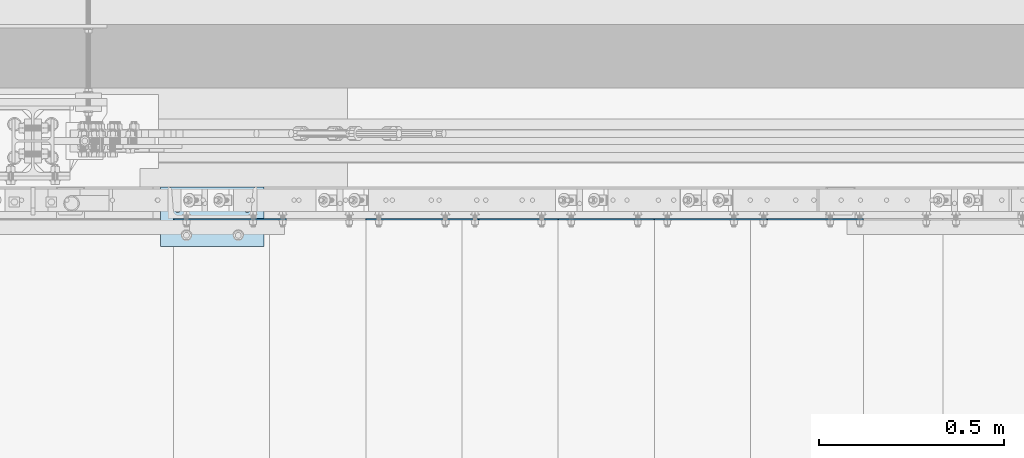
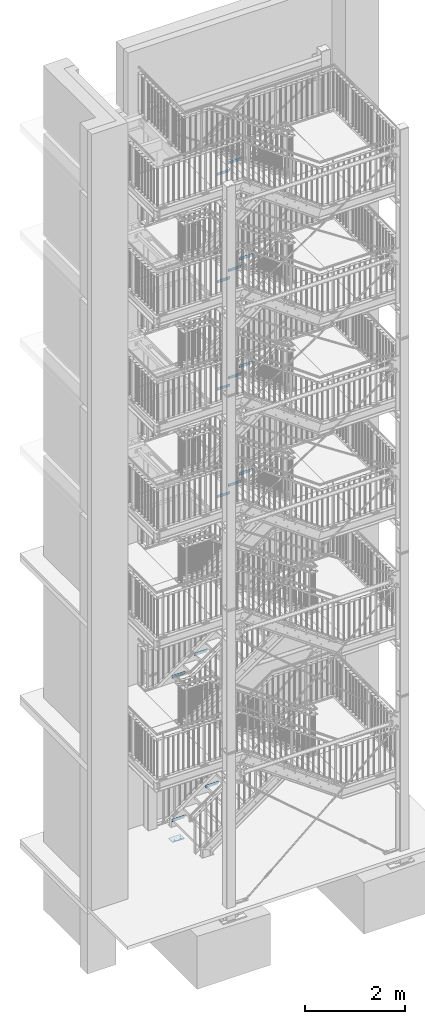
# One storey, part 191 of 825: 16 plates, 34 openings.
"""IFC2X3 building model written with IfcOpenShell, lengths in millimetres."""

from ifc_helpers import new_model, entity, si_unit, converted_unit, point, frame, frame_2d, origin, origin_with_axes, origin_2d_with_axis, place, context, project, spatial, polyline, circle_curve, line_curve, trimmed, segment, composite_curve, circle, outline, extrude, material, layer, layer_set, element, save


model = new_model("IFC2X3")

# Units and contexts
model_context = context("Model", 3, precision=1e-09, world=origin_with_axes())
ifc_project = project(units=[si_unit("LENGTHUNIT", "METRE", prefix="MILLI"), si_unit("AREAUNIT", "SQUARE_METRE"), si_unit("VOLUMEUNIT", "CUBIC_METRE"), converted_unit("PLANEANGLEUNIT", "DEGREE", entity("IfcPlaneAngleMeasure", 0.01745329), si_unit("PLANEANGLEUNIT", "RADIAN"), dimensions=[0, 0, 0, 0, 0, 0, 0])], contexts=[model_context])

# Site, building, storey
site_placement = place(None, origin_with_axes())
site = spatial("IfcSite", under=ifc_project, at=site_placement, Name="Cnopf'sche Kinderklinik", CompositionType="ELEMENT")
building_placement = place(site_placement, origin_with_axes())
building = spatial("IfcBuilding", under=site, at=building_placement, Name="Struktur 1", CompositionType="ELEMENT")
storey_placement = place(building_placement, origin_with_axes())
storey = spatial("IfcBuildingStorey", under=building, at=storey_placement, Name="Default Storey", CompositionType="ELEMENT", Elevation=0.0)

# Plate, openings
ifc_material = material(Name="S235JR")
ifc_layer_1 = layer(ifc_material, 3.0)
ifc_layer_set_1 = layer_set([ifc_layer_1], Name="S235JR")
plate_1_placement = place(None, frame((6276.713402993, 7306.736971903, 10742.571429), z_axis=(0.0, -1.0, 0.0), x_axis=(0.0, 0.0, -1.0)))
plate_1 = element("IfcPlate", 1, at=plate_1_placement, inside=storey, material=ifc_layer_set_1, Name="Grate_Step#23", ObjectType="Grate_Step#23", context=model_context, shape_type="SweptSolid", body=[
    extrude(outline(polyline([(0.0, 0.0), (70.0, 0.0), (70.0, 275.0), (40.0, 305.0), (0.0, 305.0), (0.0, 0.0)])), origin_with_axes(), (0.0, 0.0, 1.0), 3.0),
])
opening_1_placement = place(plate_1_placement, frame((55.0, 215.0, 3.5), z_axis=(0.0, 0.0, -1.0), x_axis=(0.0, 1.0, 0.0)))
element("IfcOpeningElement", 2, at=opening_1_placement, cuts=plate_1, ObjectType="Opening", context=model_context, shape_type="SweptSolid", body=[
    extrude(outline(composite_curve([segment(trimmed(line_curve((-9.5, -7.001), (1.0, 0.0), 19.0), [point((-9.5, -7.001))], [point((9.5, -7.001))], True, "CARTESIAN"), True, "CONTINUOUS"), segment(trimmed(circle_curve(frame_2d((9.5, 0.0), x_axis=(1.0, 0.0)), 7.001), [point((9.5, -7.001))], [point((9.5, 7.001))], True, "CARTESIAN"), True, "CONTINUOUS"), segment(trimmed(line_curve((9.5, 7.001), (-1.0, 0.0), 19.0), [point((9.5, 7.001))], [point((-9.5, 7.001))], True, "CARTESIAN"), True, "CONTINUOUS"), segment(trimmed(circle_curve(frame_2d((-9.5, 0.0), x_axis=(1.0, 0.0)), 7.001), [point((-9.5, 7.001))], [point((-9.5, -7.001))], True, "CARTESIAN"), True, "CONTINUOUS")], self_intersect=False)), origin(), (0.0, 0.0, 1.0), 4.0),
])
opening_2_placement = place(plate_1_placement, frame((55.0, 35.0, 3.5), z_axis=(0.0, 0.0, -1.0), x_axis=(0.0, 1.0, 0.0)))
element("IfcOpeningElement", 3, at=opening_2_placement, cuts=plate_1, ObjectType="Opening", context=model_context, shape_type="SweptSolid", body=[
    extrude(circle(Radius=7.001, at=origin_2d_with_axis()), origin(), (0.0, 0.0, 1.0), 4.0),
])

plate_2_placement = place(None, frame((6796.713402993, 7306.736971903, 11117.8571432), z_axis=(0.0, -1.0, 0.0), x_axis=(0.0, 0.0, -1.0)))
plate_2 = element("IfcPlate", 4, at=plate_2_placement, inside=storey, material=ifc_layer_set_1, Name="Grate_Step#37", ObjectType="Grate_Step#37", context=model_context, shape_type="SweptSolid", body=[
    extrude(outline(polyline([(0.0, 0.0), (70.0, 0.0), (70.0, 275.0), (40.0, 305.0), (0.0, 305.0), (0.0, 0.0)])), origin_with_axes(), (0.0, 0.0, 1.0), 3.0),
])
opening_3_placement = place(plate_2_placement, frame((55.0, 215.0, 3.5), z_axis=(0.0, 0.0, -1.0), x_axis=(0.0, 1.0, 0.0)))
element("IfcOpeningElement", 5, at=opening_3_placement, cuts=plate_2, ObjectType="Opening", context=model_context, shape_type="SweptSolid", body=[
    extrude(outline(composite_curve([segment(trimmed(line_curve((-9.5, -7.001), (1.0, 0.0), 19.0), [point((-9.5, -7.001))], [point((9.5, -7.001))], True, "CARTESIAN"), True, "CONTINUOUS"), segment(trimmed(circle_curve(frame_2d((9.5, 0.0), x_axis=(1.0, 0.0)), 7.001), [point((9.5, -7.001))], [point((9.5, 7.001))], True, "CARTESIAN"), True, "CONTINUOUS"), segment(trimmed(line_curve((9.5, 7.001), (-1.0, 0.0), 19.0), [point((9.5, 7.001))], [point((-9.5, 7.001))], True, "CARTESIAN"), True, "CONTINUOUS"), segment(trimmed(circle_curve(frame_2d((-9.5, 0.0), x_axis=(1.0, 0.0)), 7.001), [point((-9.5, 7.001))], [point((-9.5, -7.001))], True, "CARTESIAN"), True, "CONTINUOUS")], self_intersect=False)), origin(), (0.0, 0.0, 1.0), 4.0),
])
opening_4_placement = place(plate_2_placement, frame((55.0, 35.0, 3.5), z_axis=(0.0, 0.0, -1.0), x_axis=(0.0, 1.0, 0.0)))
element("IfcOpeningElement", 6, at=opening_4_placement, cuts=plate_2, ObjectType="Opening", context=model_context, shape_type="SweptSolid", body=[
    extrude(circle(Radius=7.001, at=origin_2d_with_axis()), origin(), (0.0, 0.0, 1.0), 4.0),
])

plate_3_placement = place(None, frame((6536.713402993, 7306.736971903, 10930.2142861), z_axis=(0.0, -1.0, 0.0), x_axis=(0.0, 0.0, -1.0)))
plate_3 = element("IfcPlate", 7, at=plate_3_placement, inside=storey, material=ifc_layer_set_1, Name="Grate_Step#30", ObjectType="Grate_Step#30", context=model_context, shape_type="SweptSolid", body=[
    extrude(outline(polyline([(0.0, 0.0), (70.0, 0.0), (70.0, 275.0), (40.0, 305.0), (0.0, 305.0), (0.0, 0.0)])), origin_with_axes(), (0.0, 0.0, 1.0), 3.0),
])
opening_5_placement = place(plate_3_placement, frame((55.0, 35.0, 3.5), z_axis=(0.0, 0.0, -1.0), x_axis=(0.0, 1.0, 0.0)))
element("IfcOpeningElement", 8, at=opening_5_placement, cuts=plate_3, ObjectType="Opening", context=model_context, shape_type="SweptSolid", body=[
    extrude(circle(Radius=7.001, at=origin_2d_with_axis()), origin(), (0.0, 0.0, 1.0), 4.0),
])
opening_6_placement = place(plate_3_placement, frame((55.0, 215.0, 3.5), z_axis=(0.0, 0.0, -1.0), x_axis=(0.0, 1.0, 0.0)))
element("IfcOpeningElement", 9, at=opening_6_placement, cuts=plate_3, ObjectType="Opening", context=model_context, shape_type="SweptSolid", body=[
    extrude(outline(composite_curve([segment(trimmed(line_curve((-9.5, -7.001), (1.0, 0.0), 19.0), [point((-9.5, -7.001))], [point((9.5, -7.001))], True, "CARTESIAN"), True, "CONTINUOUS"), segment(trimmed(circle_curve(frame_2d((9.5, 0.0), x_axis=(1.0, 0.0)), 7.001), [point((9.5, -7.001))], [point((9.5, 7.001))], True, "CARTESIAN"), True, "CONTINUOUS"), segment(trimmed(line_curve((9.5, 7.001), (-1.0, 0.0), 19.0), [point((9.5, 7.001))], [point((-9.5, 7.001))], True, "CARTESIAN"), True, "CONTINUOUS"), segment(trimmed(circle_curve(frame_2d((-9.5, 0.0), x_axis=(1.0, 0.0)), 7.001), [point((-9.5, 7.001))], [point((-9.5, -7.001))], True, "CARTESIAN"), True, "CONTINUOUS")], self_intersect=False)), origin(), (0.0, 0.0, 1.0), 4.0),
])

plate_4_placement = place(None, frame((6276.713402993, 7306.736971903, 8112.0), z_axis=(0.0, -1.0, 0.0), x_axis=(0.0, 0.0, -1.0)))
plate_4 = element("IfcPlate", 10, at=plate_4_placement, inside=storey, material=ifc_layer_set_1, Name="Grate_Step#23", ObjectType="Grate_Step#23", context=model_context, shape_type="SweptSolid", body=[
    extrude(outline(polyline([(0.0, 0.0), (70.0, 0.0), (70.0, 275.0), (40.0, 305.0), (0.0, 305.0), (0.0, 0.0)])), origin_with_axes(), (0.0, 0.0, 1.0), 3.0),
])
opening_7_placement = place(plate_4_placement, frame((55.0, 215.0, 3.5), z_axis=(0.0, 0.0, -1.0), x_axis=(0.0, 1.0, 0.0)))
element("IfcOpeningElement", 11, at=opening_7_placement, cuts=plate_4, ObjectType="Opening", context=model_context, shape_type="SweptSolid", body=[
    extrude(outline(composite_curve([segment(trimmed(line_curve((-9.5, -7.001), (1.0, 0.0), 19.0), [point((-9.5, -7.001))], [point((9.5, -7.001))], True, "CARTESIAN"), True, "CONTINUOUS"), segment(trimmed(circle_curve(frame_2d((9.5, 0.0), x_axis=(1.0, 0.0)), 7.001), [point((9.5, -7.001))], [point((9.5, 7.001))], True, "CARTESIAN"), True, "CONTINUOUS"), segment(trimmed(line_curve((9.5, 7.001), (-1.0, 0.0), 19.0), [point((9.5, 7.001))], [point((-9.5, 7.001))], True, "CARTESIAN"), True, "CONTINUOUS"), segment(trimmed(circle_curve(frame_2d((-9.5, 0.0), x_axis=(1.0, 0.0)), 7.001), [point((-9.5, 7.001))], [point((-9.5, -7.001))], True, "CARTESIAN"), True, "CONTINUOUS")], self_intersect=False)), origin(), (0.0, 0.0, 1.0), 4.0),
])
opening_8_placement = place(plate_4_placement, frame((55.0, 35.0, 3.5), z_axis=(0.0, 0.0, -1.0), x_axis=(0.0, 1.0, 0.0)))
element("IfcOpeningElement", 12, at=opening_8_placement, cuts=plate_4, ObjectType="Opening", context=model_context, shape_type="SweptSolid", body=[
    extrude(circle(Radius=7.001, at=origin_2d_with_axis()), origin(), (0.0, 0.0, 1.0), 4.0),
])

plate_5_placement = place(None, frame((6536.713402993, 7306.736971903, 8300.0), z_axis=(0.0, -1.0, 0.0), x_axis=(0.0, 0.0, -1.0)))
plate_5 = element("IfcPlate", 13, at=plate_5_placement, inside=storey, material=ifc_layer_set_1, Name="Grate_Step#30", ObjectType="Grate_Step#30", context=model_context, shape_type="SweptSolid", body=[
    extrude(outline(polyline([(0.0, 0.0), (70.0, 0.0), (70.0, 275.0), (40.0, 305.0), (0.0, 305.0), (0.0, 0.0)])), origin_with_axes(), (0.0, 0.0, 1.0), 3.0),
])
opening_9_placement = place(plate_5_placement, frame((55.0, 35.0, 3.5), z_axis=(0.0, 0.0, -1.0), x_axis=(0.0, 1.0, 0.0)))
element("IfcOpeningElement", 14, at=opening_9_placement, cuts=plate_5, ObjectType="Opening", context=model_context, shape_type="SweptSolid", body=[
    extrude(circle(Radius=7.001, at=origin_2d_with_axis()), origin(), (0.0, 0.0, 1.0), 4.0),
])
opening_10_placement = place(plate_5_placement, frame((55.0, 215.0, 3.5), z_axis=(0.0, 0.0, -1.0), x_axis=(0.0, 1.0, 0.0)))
element("IfcOpeningElement", 15, at=opening_10_placement, cuts=plate_5, ObjectType="Opening", context=model_context, shape_type="SweptSolid", body=[
    extrude(outline(composite_curve([segment(trimmed(line_curve((-9.5, -7.001), (1.0, 0.0), 19.0), [point((-9.5, -7.001))], [point((9.5, -7.001))], True, "CARTESIAN"), True, "CONTINUOUS"), segment(trimmed(circle_curve(frame_2d((9.5, 0.0), x_axis=(1.0, 0.0)), 7.001), [point((9.5, -7.001))], [point((9.5, 7.001))], True, "CARTESIAN"), True, "CONTINUOUS"), segment(trimmed(line_curve((9.5, 7.001), (-1.0, 0.0), 19.0), [point((9.5, 7.001))], [point((-9.5, 7.001))], True, "CARTESIAN"), True, "CONTINUOUS"), segment(trimmed(circle_curve(frame_2d((-9.5, 0.0), x_axis=(1.0, 0.0)), 7.001), [point((-9.5, 7.001))], [point((-9.5, -7.001))], True, "CARTESIAN"), True, "CONTINUOUS")], self_intersect=False)), origin(), (0.0, 0.0, 1.0), 4.0),
])

plate_6_placement = place(None, frame((6796.713402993, 7306.736971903, 8488.0), z_axis=(0.0, -1.0, 0.0), x_axis=(0.0, 0.0, -1.0)))
plate_6 = element("IfcPlate", 16, at=plate_6_placement, inside=storey, material=ifc_layer_set_1, Name="Grate_Step#37", ObjectType="Grate_Step#37", context=model_context, shape_type="SweptSolid", body=[
    extrude(outline(polyline([(0.0, 0.0), (70.0, 0.0), (70.0, 275.0), (40.0, 305.0), (0.0, 305.0), (0.0, 0.0)])), origin_with_axes(), (0.0, 0.0, 1.0), 3.0),
])
opening_11_placement = place(plate_6_placement, frame((55.0, 215.0, 3.5), z_axis=(0.0, 0.0, -1.0), x_axis=(0.0, 1.0, 0.0)))
element("IfcOpeningElement", 17, at=opening_11_placement, cuts=plate_6, ObjectType="Opening", context=model_context, shape_type="SweptSolid", body=[
    extrude(outline(composite_curve([segment(trimmed(line_curve((-9.5, -7.001), (1.0, 0.0), 19.0), [point((-9.5, -7.001))], [point((9.5, -7.001))], True, "CARTESIAN"), True, "CONTINUOUS"), segment(trimmed(circle_curve(frame_2d((9.5, 0.0), x_axis=(1.0, 0.0)), 7.001), [point((9.5, -7.001))], [point((9.5, 7.001))], True, "CARTESIAN"), True, "CONTINUOUS"), segment(trimmed(line_curve((9.5, 7.001), (-1.0, 0.0), 19.0), [point((9.5, 7.001))], [point((-9.5, 7.001))], True, "CARTESIAN"), True, "CONTINUOUS"), segment(trimmed(circle_curve(frame_2d((-9.5, 0.0), x_axis=(1.0, 0.0)), 7.001), [point((-9.5, 7.001))], [point((-9.5, -7.001))], True, "CARTESIAN"), True, "CONTINUOUS")], self_intersect=False)), origin(), (0.0, 0.0, 1.0), 4.0),
])
opening_12_placement = place(plate_6_placement, frame((55.0, 35.0, 3.5), z_axis=(0.0, 0.0, -1.0), x_axis=(0.0, 1.0, 0.0)))
element("IfcOpeningElement", 18, at=opening_12_placement, cuts=plate_6, ObjectType="Opening", context=model_context, shape_type="SweptSolid", body=[
    extrude(circle(Radius=7.001, at=origin_2d_with_axis()), origin(), (0.0, 0.0, 1.0), 4.0),
])

plate_7_placement = place(None, frame((6276.713402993, 7306.736971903, 13371.857143), z_axis=(0.0, -1.0, 0.0), x_axis=(0.0, 0.0, -1.0)))
plate_7 = element("IfcPlate", 19, at=plate_7_placement, inside=storey, material=ifc_layer_set_1, Name="Grate_Step#23", ObjectType="Grate_Step#23", context=model_context, shape_type="SweptSolid", body=[
    extrude(outline(polyline([(0.0, 0.0), (70.0, 0.0), (70.0, 275.0), (40.0, 305.0), (0.0, 305.0), (0.0, 0.0)])), origin_with_axes(), (0.0, 0.0, 1.0), 3.0),
])
opening_13_placement = place(plate_7_placement, frame((55.0, 215.0, 3.5), z_axis=(0.0, 0.0, -1.0), x_axis=(0.0, 1.0, 0.0)))
element("IfcOpeningElement", 20, at=opening_13_placement, cuts=plate_7, ObjectType="Opening", context=model_context, shape_type="SweptSolid", body=[
    extrude(outline(composite_curve([segment(trimmed(line_curve((-9.5, -7.001), (1.0, 0.0), 19.0), [point((-9.5, -7.001))], [point((9.5, -7.001))], True, "CARTESIAN"), True, "CONTINUOUS"), segment(trimmed(circle_curve(frame_2d((9.5, 0.0), x_axis=(1.0, 0.0)), 7.001), [point((9.5, -7.001))], [point((9.5, 7.001))], True, "CARTESIAN"), True, "CONTINUOUS"), segment(trimmed(line_curve((9.5, 7.001), (-1.0, 0.0), 19.0), [point((9.5, 7.001))], [point((-9.5, 7.001))], True, "CARTESIAN"), True, "CONTINUOUS"), segment(trimmed(circle_curve(frame_2d((-9.5, 0.0), x_axis=(1.0, 0.0)), 7.001), [point((-9.5, 7.001))], [point((-9.5, -7.001))], True, "CARTESIAN"), True, "CONTINUOUS")], self_intersect=False)), origin(), (0.0, 0.0, 1.0), 4.0),
])
opening_14_placement = place(plate_7_placement, frame((55.0, 35.0, 3.5), z_axis=(0.0, 0.0, -1.0), x_axis=(0.0, 1.0, 0.0)))
element("IfcOpeningElement", 21, at=opening_14_placement, cuts=plate_7, ObjectType="Opening", context=model_context, shape_type="SweptSolid", body=[
    extrude(circle(Radius=7.001, at=origin_2d_with_axis()), origin(), (0.0, 0.0, 1.0), 4.0),
])

plate_8_placement = place(None, frame((6536.713402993, 7306.736971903, 13560.0714287), z_axis=(0.0, -1.0, 0.0), x_axis=(0.0, 0.0, -1.0)))
plate_8 = element("IfcPlate", 22, at=plate_8_placement, inside=storey, material=ifc_layer_set_1, Name="Grate_Step#30", ObjectType="Grate_Step#30", context=model_context, shape_type="SweptSolid", body=[
    extrude(outline(polyline([(0.0, 0.0), (70.0, 0.0), (70.0, 275.0), (40.0, 305.0), (0.0, 305.0), (0.0, 0.0)])), origin_with_axes(), (0.0, 0.0, 1.0), 3.0),
])
opening_15_placement = place(plate_8_placement, frame((55.0, 35.0, 3.5), z_axis=(0.0, 0.0, -1.0), x_axis=(0.0, 1.0, 0.0)))
element("IfcOpeningElement", 23, at=opening_15_placement, cuts=plate_8, ObjectType="Opening", context=model_context, shape_type="SweptSolid", body=[
    extrude(circle(Radius=7.001, at=origin_2d_with_axis()), origin(), (0.0, 0.0, 1.0), 4.0),
])
opening_16_placement = place(plate_8_placement, frame((55.0, 215.0, 3.5), z_axis=(0.0, 0.0, -1.0), x_axis=(0.0, 1.0, 0.0)))
element("IfcOpeningElement", 24, at=opening_16_placement, cuts=plate_8, ObjectType="Opening", context=model_context, shape_type="SweptSolid", body=[
    extrude(outline(composite_curve([segment(trimmed(line_curve((-9.5, -7.001), (1.0, 0.0), 19.0), [point((-9.5, -7.001))], [point((9.5, -7.001))], True, "CARTESIAN"), True, "CONTINUOUS"), segment(trimmed(circle_curve(frame_2d((9.5, 0.0), x_axis=(1.0, 0.0)), 7.001), [point((9.5, -7.001))], [point((9.5, 7.001))], True, "CARTESIAN"), True, "CONTINUOUS"), segment(trimmed(line_curve((9.5, 7.001), (-1.0, 0.0), 19.0), [point((9.5, 7.001))], [point((-9.5, 7.001))], True, "CARTESIAN"), True, "CONTINUOUS"), segment(trimmed(circle_curve(frame_2d((-9.5, 0.0), x_axis=(1.0, 0.0)), 7.001), [point((-9.5, 7.001))], [point((-9.5, -7.001))], True, "CARTESIAN"), True, "CONTINUOUS")], self_intersect=False)), origin(), (0.0, 0.0, 1.0), 4.0),
])

plate_9_placement = place(None, frame((6796.713402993, 7306.736971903, 13748.2857144), z_axis=(0.0, -1.0, 0.0), x_axis=(0.0, 0.0, -1.0)))
plate_9 = element("IfcPlate", 25, at=plate_9_placement, inside=storey, material=ifc_layer_set_1, Name="Grate_Step#37", ObjectType="Grate_Step#37", context=model_context, shape_type="SweptSolid", body=[
    extrude(outline(polyline([(0.0, 0.0), (70.0, 0.0), (70.0, 275.0), (40.0, 305.0), (0.0, 305.0), (0.0, 0.0)])), origin_with_axes(), (0.0, 0.0, 1.0), 3.0),
])
opening_17_placement = place(plate_9_placement, frame((55.0, 215.0, 3.5), z_axis=(0.0, 0.0, -1.0), x_axis=(0.0, 1.0, 0.0)))
element("IfcOpeningElement", 26, at=opening_17_placement, cuts=plate_9, ObjectType="Opening", context=model_context, shape_type="SweptSolid", body=[
    extrude(outline(composite_curve([segment(trimmed(line_curve((-9.5, -7.001), (1.0, 0.0), 19.0), [point((-9.5, -7.001))], [point((9.5, -7.001))], True, "CARTESIAN"), True, "CONTINUOUS"), segment(trimmed(circle_curve(frame_2d((9.5, 0.0), x_axis=(1.0, 0.0)), 7.001), [point((9.5, -7.001))], [point((9.5, 7.001))], True, "CARTESIAN"), True, "CONTINUOUS"), segment(trimmed(line_curve((9.5, 7.001), (-1.0, 0.0), 19.0), [point((9.5, 7.001))], [point((-9.5, 7.001))], True, "CARTESIAN"), True, "CONTINUOUS"), segment(trimmed(circle_curve(frame_2d((-9.5, 0.0), x_axis=(1.0, 0.0)), 7.001), [point((-9.5, 7.001))], [point((-9.5, -7.001))], True, "CARTESIAN"), True, "CONTINUOUS")], self_intersect=False)), origin(), (0.0, 0.0, 1.0), 4.0),
])
opening_18_placement = place(plate_9_placement, frame((55.0, 35.0, 3.5), z_axis=(0.0, 0.0, -1.0), x_axis=(0.0, 1.0, 0.0)))
element("IfcOpeningElement", 27, at=opening_18_placement, cuts=plate_9, ObjectType="Opening", context=model_context, shape_type="SweptSolid", body=[
    extrude(circle(Radius=7.001, at=origin_2d_with_axis()), origin(), (0.0, 0.0, 1.0), 4.0),
])

plate_10_placement = place(None, frame((6276.713402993, 7306.736971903, 16002.571429), z_axis=(0.0, -1.0, 0.0), x_axis=(0.0, 0.0, -1.0)))
plate_10 = element("IfcPlate", 28, at=plate_10_placement, inside=storey, material=ifc_layer_set_1, Name="Grate_Step#23", ObjectType="Grate_Step#23", context=model_context, shape_type="SweptSolid", body=[
    extrude(outline(polyline([(0.0, 0.0), (70.0, 0.0), (70.0, 275.0), (40.0, 305.0), (0.0, 305.0), (0.0, 0.0)])), origin_with_axes(), (0.0, 0.0, 1.0), 3.0),
])
opening_19_placement = place(plate_10_placement, frame((55.0, 215.0, 3.5), z_axis=(0.0, 0.0, -1.0), x_axis=(0.0, 1.0, 0.0)))
element("IfcOpeningElement", 29, at=opening_19_placement, cuts=plate_10, ObjectType="Opening", context=model_context, shape_type="SweptSolid", body=[
    extrude(outline(composite_curve([segment(trimmed(line_curve((-9.5, -7.001), (1.0, 0.0), 19.0), [point((-9.5, -7.001))], [point((9.5, -7.001))], True, "CARTESIAN"), True, "CONTINUOUS"), segment(trimmed(circle_curve(frame_2d((9.5, 0.0), x_axis=(1.0, 0.0)), 7.001), [point((9.5, -7.001))], [point((9.5, 7.001))], True, "CARTESIAN"), True, "CONTINUOUS"), segment(trimmed(line_curve((9.5, 7.001), (-1.0, 0.0), 19.0), [point((9.5, 7.001))], [point((-9.5, 7.001))], True, "CARTESIAN"), True, "CONTINUOUS"), segment(trimmed(circle_curve(frame_2d((-9.5, 0.0), x_axis=(1.0, 0.0)), 7.001), [point((-9.5, 7.001))], [point((-9.5, -7.001))], True, "CARTESIAN"), True, "CONTINUOUS")], self_intersect=False)), origin(), (0.0, 0.0, 1.0), 4.0),
])
opening_20_placement = place(plate_10_placement, frame((55.0, 35.0, 3.5), z_axis=(0.0, 0.0, -1.0), x_axis=(0.0, 1.0, 0.0)))
element("IfcOpeningElement", 30, at=opening_20_placement, cuts=plate_10, ObjectType="Opening", context=model_context, shape_type="SweptSolid", body=[
    extrude(circle(Radius=7.001, at=origin_2d_with_axis()), origin(), (0.0, 0.0, 1.0), 4.0),
])

plate_11_placement = place(None, frame((6536.713402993, 7306.736971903, 16189.7142861), z_axis=(0.0, -1.0, 0.0), x_axis=(0.0, 0.0, -1.0)))
plate_11 = element("IfcPlate", 31, at=plate_11_placement, inside=storey, material=ifc_layer_set_1, Name="Grate_Step#30", ObjectType="Grate_Step#30", context=model_context, shape_type="SweptSolid", body=[
    extrude(outline(polyline([(0.0, 0.0), (70.0, 0.0), (70.0, 275.0), (40.0, 305.0), (0.0, 305.0), (0.0, 0.0)])), origin_with_axes(), (0.0, 0.0, 1.0), 3.0),
])
opening_21_placement = place(plate_11_placement, frame((55.0, 35.0, 3.5), z_axis=(0.0, 0.0, -1.0), x_axis=(0.0, 1.0, 0.0)))
element("IfcOpeningElement", 32, at=opening_21_placement, cuts=plate_11, ObjectType="Opening", context=model_context, shape_type="SweptSolid", body=[
    extrude(circle(Radius=7.001, at=origin_2d_with_axis()), origin(), (0.0, 0.0, 1.0), 4.0),
])
opening_22_placement = place(plate_11_placement, frame((55.0, 215.0, 3.5), z_axis=(0.0, 0.0, -1.0), x_axis=(0.0, 1.0, 0.0)))
element("IfcOpeningElement", 33, at=opening_22_placement, cuts=plate_11, ObjectType="Opening", context=model_context, shape_type="SweptSolid", body=[
    extrude(outline(composite_curve([segment(trimmed(line_curve((-9.5, -7.001), (1.0, 0.0), 19.0), [point((-9.5, -7.001))], [point((9.5, -7.001))], True, "CARTESIAN"), True, "CONTINUOUS"), segment(trimmed(circle_curve(frame_2d((9.5, 0.0), x_axis=(1.0, 0.0)), 7.001), [point((9.5, -7.001))], [point((9.5, 7.001))], True, "CARTESIAN"), True, "CONTINUOUS"), segment(trimmed(line_curve((9.5, 7.001), (-1.0, 0.0), 19.0), [point((9.5, 7.001))], [point((-9.5, 7.001))], True, "CARTESIAN"), True, "CONTINUOUS"), segment(trimmed(circle_curve(frame_2d((-9.5, 0.0), x_axis=(1.0, 0.0)), 7.001), [point((-9.5, 7.001))], [point((-9.5, -7.001))], True, "CARTESIAN"), True, "CONTINUOUS")], self_intersect=False)), origin(), (0.0, 0.0, 1.0), 4.0),
])

plate_12_placement = place(None, frame((5236.713402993, 7306.736971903, 4069.7894734), z_axis=(0.0, -1.0, 0.0), x_axis=(0.0, 0.0, -1.0)))
plate_12 = element("IfcPlate", 34, at=plate_12_placement, inside=storey, material=ifc_layer_set_1, Name="Grate_Step#2", ObjectType="Grate_Step#2", context=model_context, shape_type="SweptSolid", body=[
    extrude(outline(polyline([(0.0, 0.0), (70.0, 0.0), (70.0, 275.0), (40.0, 305.0), (0.0, 305.0), (0.0, 0.0)])), origin_with_axes(), (0.0, 0.0, 1.0), 3.0),
])
opening_23_placement = place(plate_12_placement, frame((55.0, 215.0, 3.5), z_axis=(0.0, 0.0, -1.0), x_axis=(0.0, 1.0, 0.0)))
element("IfcOpeningElement", 35, at=opening_23_placement, cuts=plate_12, ObjectType="Opening", context=model_context, shape_type="SweptSolid", body=[
    extrude(outline(composite_curve([segment(trimmed(line_curve((-9.5, -7.001), (1.0, 0.0), 19.0), [point((-9.5, -7.001))], [point((9.5, -7.001))], True, "CARTESIAN"), True, "CONTINUOUS"), segment(trimmed(circle_curve(frame_2d((9.5, 0.0), x_axis=(1.0, 0.0)), 7.001), [point((9.5, -7.001))], [point((9.5, 7.001))], True, "CARTESIAN"), True, "CONTINUOUS"), segment(trimmed(line_curve((9.5, 7.001), (-1.0, 0.0), 19.0), [point((9.5, 7.001))], [point((-9.5, 7.001))], True, "CARTESIAN"), True, "CONTINUOUS"), segment(trimmed(circle_curve(frame_2d((-9.5, 0.0), x_axis=(1.0, 0.0)), 7.001), [point((-9.5, 7.001))], [point((-9.5, -7.001))], True, "CARTESIAN"), True, "CONTINUOUS")], self_intersect=False)), origin(), (0.0, 0.0, 1.0), 4.0),
])
opening_24_placement = place(plate_12_placement, frame((55.0, 35.0, 3.5), z_axis=(0.0, 0.0, -1.0), x_axis=(0.0, 1.0, 0.0)))
element("IfcOpeningElement", 36, at=opening_24_placement, cuts=plate_12, ObjectType="Opening", context=model_context, shape_type="SweptSolid", body=[
    extrude(circle(Radius=7.001, at=origin_2d_with_axis()), origin(), (0.0, 0.0, 1.0), 4.0),
])

plate_13_placement = place(None, frame((6016.713402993, 7306.736971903, 1110.421052), z_axis=(0.0, -1.0, 0.0), x_axis=(0.0, 0.0, -1.0)))
plate_13 = element("IfcPlate", 37, at=plate_13_placement, inside=storey, material=ifc_layer_set_1, Name="Grate_Step#23", ObjectType="Grate_Step#23", context=model_context, shape_type="SweptSolid", body=[
    extrude(outline(polyline([(0.0, 0.0), (70.0, 0.0), (70.0, 275.0), (40.0, 305.0), (0.0, 305.0), (0.0, 0.0)])), origin_with_axes(), (0.0, 0.0, 1.0), 3.0),
])
opening_25_placement = place(plate_13_placement, frame((55.0, 215.0, 3.5), z_axis=(0.0, 0.0, -1.0), x_axis=(0.0, 1.0, 0.0)))
element("IfcOpeningElement", 38, at=opening_25_placement, cuts=plate_13, ObjectType="Opening", context=model_context, shape_type="SweptSolid", body=[
    extrude(outline(composite_curve([segment(trimmed(line_curve((-9.5, -7.001), (1.0, 0.0), 19.0), [point((-9.5, -7.001))], [point((9.5, -7.001))], True, "CARTESIAN"), True, "CONTINUOUS"), segment(trimmed(circle_curve(frame_2d((9.5, 0.0), x_axis=(1.0, 0.0)), 7.001), [point((9.5, -7.001))], [point((9.5, 7.001))], True, "CARTESIAN"), True, "CONTINUOUS"), segment(trimmed(line_curve((9.5, 7.001), (-1.0, 0.0), 19.0), [point((9.5, 7.001))], [point((-9.5, 7.001))], True, "CARTESIAN"), True, "CONTINUOUS"), segment(trimmed(circle_curve(frame_2d((-9.5, 0.0), x_axis=(1.0, 0.0)), 7.001), [point((-9.5, 7.001))], [point((-9.5, -7.001))], True, "CARTESIAN"), True, "CONTINUOUS")], self_intersect=False)), origin(), (0.0, 0.0, 1.0), 4.0),
])
opening_26_placement = place(plate_13_placement, frame((55.0, 35.0, 3.5), z_axis=(0.0, 0.0, -1.0), x_axis=(0.0, 1.0, 0.0)))
element("IfcOpeningElement", 39, at=opening_26_placement, cuts=plate_13, ObjectType="Opening", context=model_context, shape_type="SweptSolid", body=[
    extrude(circle(Radius=7.001, at=origin_2d_with_axis()), origin(), (0.0, 0.0, 1.0), 4.0),
])

plate_14_placement = place(None, frame((5236.713402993, 7306.736971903, 555.1052624), z_axis=(0.0, -1.0, 0.0), x_axis=(0.0, 0.0, -1.0)))
plate_14 = element("IfcPlate", 40, at=plate_14_placement, inside=storey, material=ifc_layer_set_1, Name="Grate_Step#2", ObjectType="Grate_Step#2", context=model_context, shape_type="SweptSolid", body=[
    extrude(outline(polyline([(0.0, 0.0), (70.0, 0.0), (70.0, 275.0), (40.0, 305.0), (0.0, 305.0), (0.0, 0.0)])), origin_with_axes(), (0.0, 0.0, 1.0), 3.0),
])
opening_27_placement = place(plate_14_placement, frame((55.0, 215.0, 3.5), z_axis=(0.0, 0.0, -1.0), x_axis=(0.0, 1.0, 0.0)))
element("IfcOpeningElement", 41, at=opening_27_placement, cuts=plate_14, ObjectType="Opening", context=model_context, shape_type="SweptSolid", body=[
    extrude(outline(composite_curve([segment(trimmed(line_curve((-9.5, -7.001), (1.0, 0.0), 19.0), [point((-9.5, -7.001))], [point((9.5, -7.001))], True, "CARTESIAN"), True, "CONTINUOUS"), segment(trimmed(circle_curve(frame_2d((9.5, 0.0), x_axis=(1.0, 0.0)), 7.001), [point((9.5, -7.001))], [point((9.5, 7.001))], True, "CARTESIAN"), True, "CONTINUOUS"), segment(trimmed(line_curve((9.5, 7.001), (-1.0, 0.0), 19.0), [point((9.5, 7.001))], [point((-9.5, 7.001))], True, "CARTESIAN"), True, "CONTINUOUS"), segment(trimmed(circle_curve(frame_2d((-9.5, 0.0), x_axis=(1.0, 0.0)), 7.001), [point((-9.5, 7.001))], [point((-9.5, -7.001))], True, "CARTESIAN"), True, "CONTINUOUS")], self_intersect=False)), origin(), (0.0, 0.0, 1.0), 4.0),
])
opening_28_placement = place(plate_14_placement, frame((55.0, 35.0, 3.5), z_axis=(0.0, 0.0, -1.0), x_axis=(0.0, 1.0, 0.0)))
element("IfcOpeningElement", 42, at=opening_28_placement, cuts=plate_14, ObjectType="Opening", context=model_context, shape_type="SweptSolid", body=[
    extrude(circle(Radius=7.001, at=origin_2d_with_axis()), origin(), (0.0, 0.0, 1.0), 4.0),
])

plate_15_placement = place(None, frame((5756.713402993, 7306.736971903, 4435.3684208), z_axis=(0.0, -1.0, 0.0), x_axis=(0.0, 0.0, -1.0)))
plate_15 = element("IfcPlate", 43, at=plate_15_placement, inside=storey, material=ifc_layer_set_1, Name="Grate_Step#16", ObjectType="Grate_Step#16", context=model_context, shape_type="SweptSolid", body=[
    extrude(outline(polyline([(0.0, 0.0), (70.0, 0.0), (70.0, 275.0), (40.0, 305.0), (0.0, 305.0), (0.0, 0.0)])), origin_with_axes(), (0.0, 0.0, 1.0), 3.0),
])
opening_29_placement = place(plate_15_placement, frame((55.0, 215.0, 3.5), z_axis=(0.0, 0.0, -1.0), x_axis=(0.0, 1.0, 0.0)))
element("IfcOpeningElement", 44, at=opening_29_placement, cuts=plate_15, ObjectType="Opening", context=model_context, shape_type="SweptSolid", body=[
    extrude(outline(composite_curve([segment(trimmed(line_curve((-9.5, -7.001), (1.0, 0.0), 19.0), [point((-9.5, -7.001))], [point((9.5, -7.001))], True, "CARTESIAN"), True, "CONTINUOUS"), segment(trimmed(circle_curve(frame_2d((9.5, 0.0), x_axis=(1.0, 0.0)), 7.001), [point((9.5, -7.001))], [point((9.5, 7.001))], True, "CARTESIAN"), True, "CONTINUOUS"), segment(trimmed(line_curve((9.5, 7.001), (-1.0, 0.0), 19.0), [point((9.5, 7.001))], [point((-9.5, 7.001))], True, "CARTESIAN"), True, "CONTINUOUS"), segment(trimmed(circle_curve(frame_2d((-9.5, 0.0), x_axis=(1.0, 0.0)), 7.001), [point((-9.5, 7.001))], [point((-9.5, -7.001))], True, "CARTESIAN"), True, "CONTINUOUS")], self_intersect=False)), origin(), (0.0, 0.0, 1.0), 4.0),
])
opening_30_placement = place(plate_15_placement, frame((55.0, 35.0, 3.5), z_axis=(0.0, 0.0, -1.0), x_axis=(0.0, 1.0, 0.0)))
element("IfcOpeningElement", 45, at=opening_30_placement, cuts=plate_15, ObjectType="Opening", context=model_context, shape_type="SweptSolid", body=[
    extrude(circle(Radius=7.001, at=origin_2d_with_axis()), origin(), (0.0, 0.0, 1.0), 4.0),
])

ifc_layer_2 = layer(ifc_material, 20.0)
ifc_layer_set_2 = layer_set([ifc_layer_2], Name="S235JR")
plate_16_placement = place(None, frame((5201.713402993, 7231.736971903, 50.0), z_axis=(0.0, 0.0, -1.0), x_axis=(0.0, 1.0, 0.0)))
plate_16 = element("IfcPlate", 46, at=plate_16_placement, inside=storey, material=ifc_layer_set_2, Name="Baseplate", ObjectType="Baseplate", context=model_context, shape_type="SweptSolid", body=[
    extrude(outline(polyline([(0.0, 0.0), (160.0, 0.0), (160.0, 280.0), (0.0, 280.0), (0.0, 0.0)])), origin_with_axes(), (0.0, 0.0, 1.0), 20.0),
])
opening_31_placement = place(plate_16_placement, frame((30.0, 140.0, 20.5), z_axis=(0.0, 0.0, -1.0), x_axis=(1.0, 0.0, 0.0)))
element("IfcOpeningElement", 47, at=opening_31_placement, cuts=plate_16, ObjectType="Opening", context=model_context, shape_type="SweptSolid", body=[
    extrude(circle(Radius=10.001, at=frame_2d((0.0, 70.0), x_axis=(1.0, 0.0))), origin(), (0.0, 0.0, 1.0), 21.0),
])
opening_32_placement = place(plate_16_placement, frame((30.0, 140.0, 20.5), z_axis=(0.0, 0.0, -1.0), x_axis=(1.0, 0.0, 0.0)))
element("IfcOpeningElement", 48, at=opening_32_placement, cuts=plate_16, ObjectType="Opening", context=model_context, shape_type="SweptSolid", body=[
    extrude(circle(Radius=10.001, at=frame_2d((0.0, -70.0), x_axis=(1.0, 0.0))), origin(), (0.0, 0.0, 1.0), 21.0),
])
opening_33_placement = place(plate_16_placement, frame((97.5, 234.0, 20.5), z_axis=(0.0, 0.0, -1.0), x_axis=(0.0, 1.0, 0.0)))
element("IfcOpeningElement", 49, at=opening_33_placement, cuts=plate_16, ObjectType="Opening", context=model_context, shape_type="SweptSolid", body=[
    extrude(circle(Radius=6.001, at=origin_2d_with_axis()), origin(), (0.0, 0.0, 1.0), 21.0),
])
opening_34_placement = place(plate_16_placement, frame((97.5, 46.0, 20.5), z_axis=(0.0, 0.0, -1.0), x_axis=(0.0, 1.0, 0.0)))
element("IfcOpeningElement", 50, at=opening_34_placement, cuts=plate_16, ObjectType="Opening", context=model_context, shape_type="SweptSolid", body=[
    extrude(circle(Radius=6.001, at=origin_2d_with_axis()), origin(), (0.0, 0.0, 1.0), 21.0),
])

save(model, "model.ifc")
